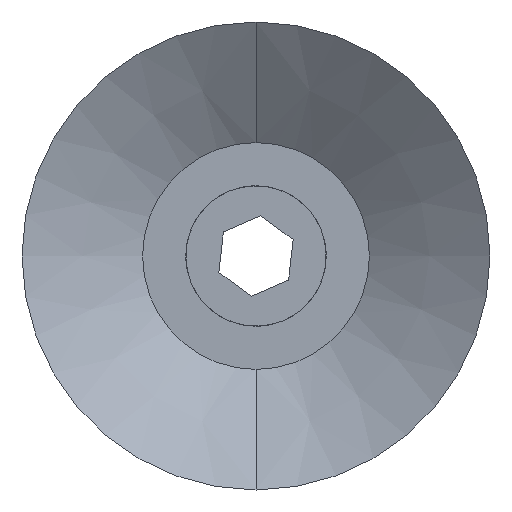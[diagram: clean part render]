
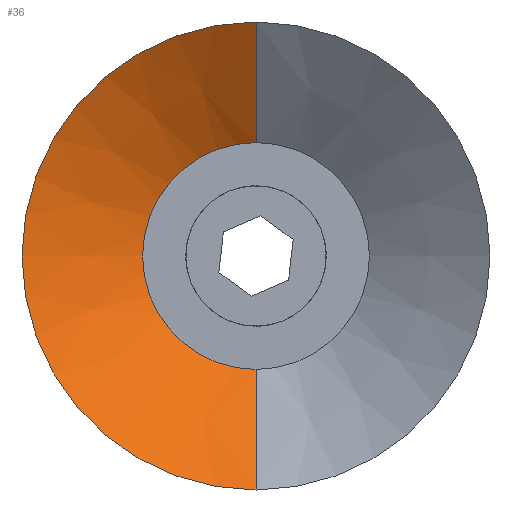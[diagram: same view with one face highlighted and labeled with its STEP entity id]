
A CAD part, front view. The second image highlights one B-rep face of the part: STEP entity #36.
In plain terms, the highlighted conical face has half-angle 56.391 degrees and reference radius 4.845 mm.
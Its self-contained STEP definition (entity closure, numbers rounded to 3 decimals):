
#36 = ADVANCED_FACE ( 'NONE', ( #705 ), #712, .F. ) ;
#228 = DIRECTION ( 'NONE',  ( 0., 0., -1. ) ) ;
#229 = DIRECTION ( 'NONE',  ( 0., -1., 0. ) ) ;
#231 = CARTESIAN_POINT ( 'NONE',  ( 0., 0., 0. ) ) ;
#239 = CARTESIAN_POINT ( 'NONE',  ( 0., 3.426, -4.845 ) ) ;
#241 = DIRECTION ( 'NONE',  ( 0., 0., -1. ) ) ;
#242 = DIRECTION ( 'NONE',  ( 0., -1., 0. ) ) ;
#244 = CARTESIAN_POINT ( 'NONE',  ( 0., 3.426, 0. ) ) ;
#246 = CARTESIAN_POINT ( 'NONE',  ( 0., 3.426, 4.845 ) ) ;
#247 = DIRECTION ( 'NONE',  ( 0., -0.554, -0.833 ) ) ;
#252 = DIRECTION ( 'NONE',  ( 0., -0.554, 0.833 ) ) ;
#347 = CARTESIAN_POINT ( 'NONE',  ( 0., 3.426, 4.845 ) ) ;
#365 = CARTESIAN_POINT ( 'NONE',  ( 0., 3.426, -4.845 ) ) ;
#404 = CARTESIAN_POINT ( 'NONE',  ( 0., 0., 10. ) ) ;
#413 = CARTESIAN_POINT ( 'NONE',  ( 0., 0., -10. ) ) ;
#478 = EDGE_LOOP ( 'NONE', ( #660, #662, #656, #670 ) ) ;
#596 = CARTESIAN_POINT ( 'NONE',  ( 0., 3.426, 0. ) ) ;
#599 = DIRECTION ( 'NONE',  ( 0., -1., 0. ) ) ;
#600 = DIRECTION ( 'NONE',  ( 0., 0., -1. ) ) ;
#620 = VERTEX_POINT ( 'NONE', #413 ) ;
#622 = VERTEX_POINT ( 'NONE', #365 ) ;
#644 = VERTEX_POINT ( 'NONE', #404 ) ;
#647 = VERTEX_POINT ( 'NONE', #347 ) ;
#656 = ORIENTED_EDGE ( 'NONE', *, *, #1103, .T. ) ;
#660 = ORIENTED_EDGE ( 'NONE', *, *, #1101, .F. ) ;
#662 = ORIENTED_EDGE ( 'NONE', *, *, #1102, .T. ) ;
#670 = ORIENTED_EDGE ( 'NONE', *, *, #1104, .F. ) ;
#705 = FACE_OUTER_BOUND ( 'NONE', #478, .T. ) ;
#712 = CONICAL_SURFACE ( 'NONE', #1181, 4.845, 0.984 ) ;
#793 = VECTOR ( 'NONE', #252, 1000. ) ;
#799 = CIRCLE ( 'NONE', #1051, 10. ) ;
#802 = LINE ( 'NONE', #246, #793 ) ;
#805 = CIRCLE ( 'NONE', #1050, 4.845 ) ;
#807 = LINE ( 'NONE', #239, #809 ) ;
#809 = VECTOR ( 'NONE', #247, 1000. ) ;
#1050 = AXIS2_PLACEMENT_3D ( 'NONE', #244, #242, #241 ) ;
#1051 = AXIS2_PLACEMENT_3D ( 'NONE', #231, #229, #228 ) ;
#1101 = EDGE_CURVE ( 'NONE', #647, #622, #805, .T. ) ;
#1102 = EDGE_CURVE ( 'NONE', #647, #644, #802, .T. ) ;
#1103 = EDGE_CURVE ( 'NONE', #644, #620, #799, .T. ) ;
#1104 = EDGE_CURVE ( 'NONE', #622, #620, #807, .T. ) ;
#1181 = AXIS2_PLACEMENT_3D ( 'NONE', #596, #599, #600 ) ;
